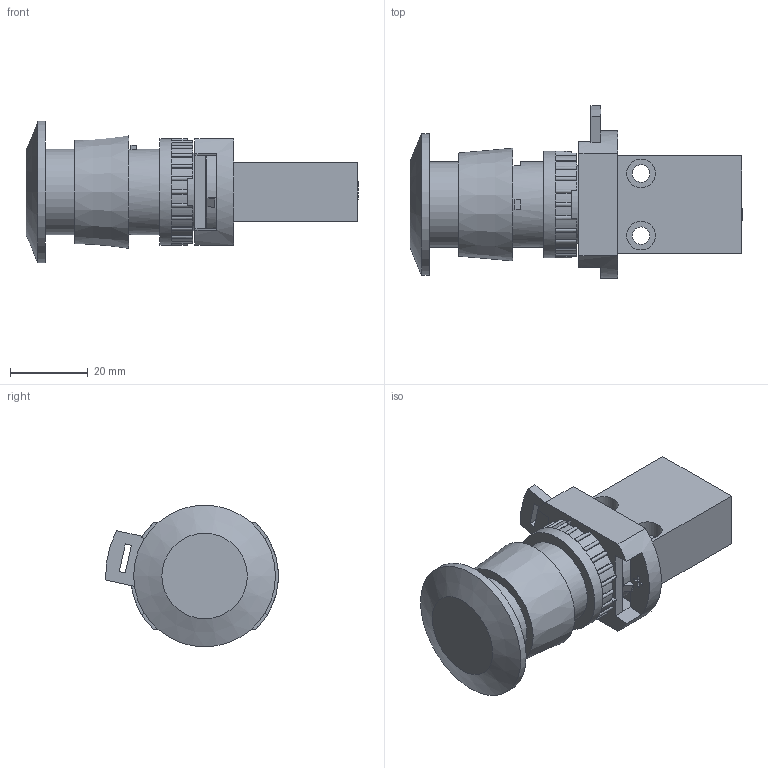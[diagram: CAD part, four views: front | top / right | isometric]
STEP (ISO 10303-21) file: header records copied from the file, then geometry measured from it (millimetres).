
FILE_DESCRIPTION (( 'STEP AP214' ), '1' );
FILE_NAME ('18-T-23-012---T-25-311_Airtec.step', '2018-11-15T13:09:48', ( '' ), ( '' ), 'SwSTEP 2.0', 'SolidWorks 2010', '' );
FILE_SCHEMA (( 'AUTOMOTIVE_DESIGN' ));
Length unit declared in the file: millimetre
Products named in the file (3): 18-T-23-012-Airtec; T-25-311_161206; 18-T-23-012---T-25-311_Airtec
Assembly tree (2 placements, depth 2):
  18-T-23-012---T-25-311_Airtec
    T-25-311_161206
    18-T-23-012-Airtec
Bounding box: 85.5 x 44.48 x 36.5 mm (x, y, z)
Volume: 41199.5 mm3; surface area: 15403.5 mm2
Topology: 2 solids, 2 shells, 373 faces, 1021 edges, 661 vertices
Faces by surface type: plane 174, cylinder 140, cone 45, torus 13, sphere 1
Full cylindrical faces by diameter (mm): 2.693 x2, 3.2 x2, 4.134 x2, 4.5 x2, 5.7 x2, 6 x1, 7.4 x4, 10 x1, 16 x1, 20 x1, 20.3 x1, 22 x2, 27.4 x1, 36.5 x1
Entity records: 12088 total; most frequent: CARTESIAN_POINT 2540, DIRECTION 2074, ORIENTED_EDGE 1940, EDGE_CURVE 970, AXIS2_PLACEMENT_3D 825, VERTEX_POINT 647, CIRCLE 447, EDGE_LOOP 437
